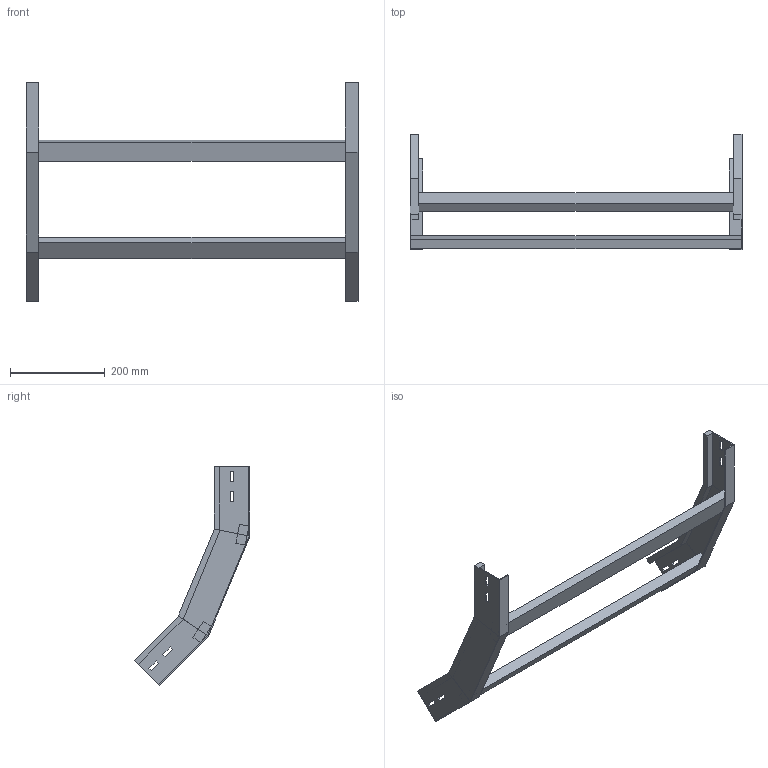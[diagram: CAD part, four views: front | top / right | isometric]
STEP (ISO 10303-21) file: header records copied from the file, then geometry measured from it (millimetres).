
FILE_DESCRIPTION (( 'STEP AP214' ), '1' );
FILE_NAME ('A2X31B5C700XX.step', '2025-03-20T10:09:46', ( '' ), ( '' ), 'SwSTEP 2.0', 'SolidWorks 2023', '' );
FILE_SCHEMA (( 'AUTOMOTIVE_DESIGN' ));
Length unit declared in the file: millimetre
Products named in the file (3): A2X31B5C700XX; TRAVERSINO_700; LONGH.SALITA_45°_H75_R500
Assembly tree (4 placements, depth 2):
  A2X31B5C700XX
    LONGH.SALITA_45°_H75_R500  x2
    TRAVERSINO_700  x2
Bounding box: 700 x 244.02 x 461.09 mm (x, y, z)
Volume: 1503721.5 mm3; surface area: 405021.9 mm2
Topology: 4 solids, 4 shells, 96 faces, 232 edges, 144 vertices
Faces by surface type: plane 96
Entity records: 1472 total; most frequent: CARTESIAN_POINT 243, ORIENTED_EDGE 232, DIRECTION 226, LINE 116, VECTOR 116, EDGE_CURVE 116, VERTEX_POINT 72, EDGE_LOOP 56
